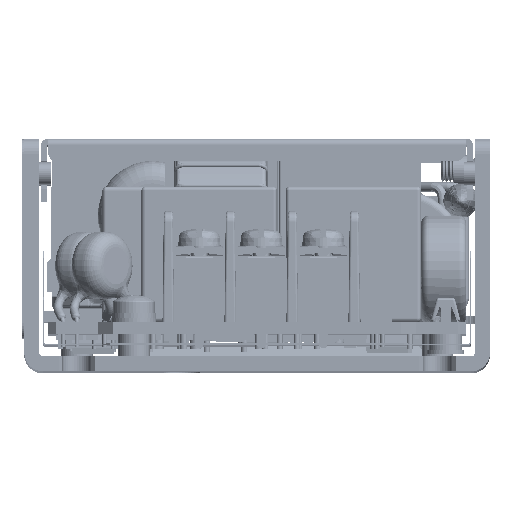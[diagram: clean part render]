
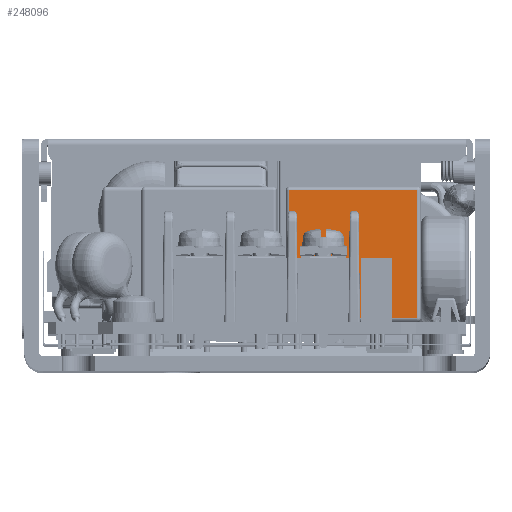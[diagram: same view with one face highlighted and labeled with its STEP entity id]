
A CAD part, top view. The second image highlights one B-rep face of the part: STEP entity #248096.
In plain terms, the highlighted planar face has unit normal (0, 0, 1) as drawn and (0, 1, 0) by its records, which use the part's own axes.
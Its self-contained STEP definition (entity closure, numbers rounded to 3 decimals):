
#17463 = LINE ( 'NONE', #25790, #190139 ) ;
#18416 = VECTOR ( 'NONE', #283668, 1000. ) ;
#22259 = CARTESIAN_POINT ( 'NONE',  ( 16., 4.5, 17.5 ) ) ;
#25790 = CARTESIAN_POINT ( 'NONE',  ( 16., 4.5, 18. ) ) ;
#31642 = PLANE ( 'NONE',  #186640 ) ;
#43603 = EDGE_CURVE ( 'NONE', #265100, #150941, #17463, .T. ) ;
#47822 = EDGE_CURVE ( 'NONE', #78261, #153612, #259747, .T. ) ;
#52467 = LINE ( 'NONE', #136297, #285175 ) ;
#78261 = VERTEX_POINT ( 'NONE', #258899 ) ;
#87084 = VECTOR ( 'NONE', #244850, 1000. ) ;
#87249 = CARTESIAN_POINT ( 'NONE',  ( -1., 4.5, 18. ) ) ;
#88068 = EDGE_CURVE ( 'NONE', #153612, #265100, #52467, .T. ) ;
#109285 = CARTESIAN_POINT ( 'NONE',  ( -1., 4.5, 17.5 ) ) ;
#122301 = CARTESIAN_POINT ( 'NONE',  ( -1.5, 4.5, 18. ) ) ;
#122587 = EDGE_CURVE ( 'NONE', #150941, #78261, #191109, .T. ) ;
#126199 = CARTESIAN_POINT ( 'NONE',  ( -1.5, 4.5, 0.5 ) ) ;
#136297 = CARTESIAN_POINT ( 'NONE',  ( 16.5, 4.5, 17.5 ) ) ;
#139882 = ORIENTED_EDGE ( 'NONE', *, *, #88068, .T. ) ;
#144956 = DIRECTION ( 'NONE',  ( 1., 0., 0. ) ) ;
#150941 = VERTEX_POINT ( 'NONE', #153417 ) ;
#153417 = CARTESIAN_POINT ( 'NONE',  ( 16., 4.5, 0.5 ) ) ;
#153612 = VERTEX_POINT ( 'NONE', #109285 ) ;
#155041 = ORIENTED_EDGE ( 'NONE', *, *, #43603, .T. ) ;
#160696 = DIRECTION ( 'NONE',  ( 0., 0., -1. ) ) ;
#186640 = AXIS2_PLACEMENT_3D ( 'NONE', #122301, #279843, #144956 ) ;
#190139 = VECTOR ( 'NONE', #160696, 1000. ) ;
#191109 = LINE ( 'NONE', #126199, #18416 ) ;
#216570 = ORIENTED_EDGE ( 'NONE', *, *, #47822, .T. ) ;
#220725 = EDGE_LOOP ( 'NONE', ( #287824, #216570, #139882, #155041 ) ) ;
#244850 = DIRECTION ( 'NONE',  ( 0., 0., 1. ) ) ;
#248096 = ADVANCED_FACE ( 'NONE', ( #276971 ), #31642, .F. ) ;
#249423 = DIRECTION ( 'NONE',  ( 1., 0., 0. ) ) ;
#258899 = CARTESIAN_POINT ( 'NONE',  ( -1., 4.5, 0.5 ) ) ;
#259747 = LINE ( 'NONE', #87249, #87084 ) ;
#265100 = VERTEX_POINT ( 'NONE', #22259 ) ;
#276971 = FACE_OUTER_BOUND ( 'NONE', #220725, .T. ) ;
#279843 = DIRECTION ( 'NONE',  ( 0., -1., 0. ) ) ;
#283668 = DIRECTION ( 'NONE',  ( -1., 0., 0. ) ) ;
#285175 = VECTOR ( 'NONE', #249423, 1000. ) ;
#287824 = ORIENTED_EDGE ( 'NONE', *, *, #122587, .T. ) ;
